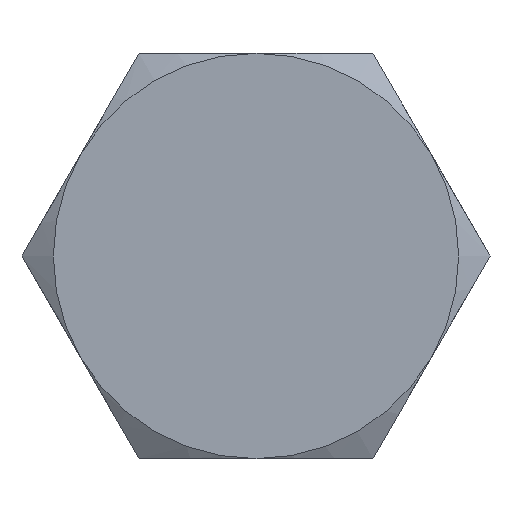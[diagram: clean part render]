
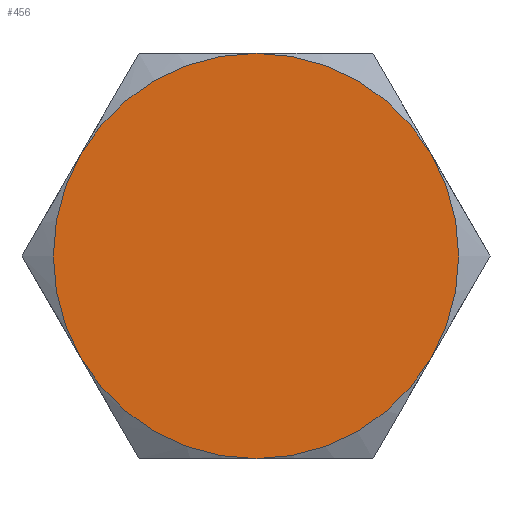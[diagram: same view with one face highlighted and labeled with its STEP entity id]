
A CAD part, left-side view. The second image highlights one B-rep face of the part: STEP entity #456.
In plain terms, the highlighted planar face has unit normal (-1, 0, 0).
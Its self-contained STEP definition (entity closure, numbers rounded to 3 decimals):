
#18 = CARTESIAN_POINT ( 'NONE',  ( 0., -5.629, -3.25 ) ) ;
#26 = DIRECTION ( 'NONE',  ( 0., 0., -1. ) ) ;
#27 = CIRCLE ( 'NONE', #412, 6.5 ) ;
#28 = DIRECTION ( 'NONE',  ( 0., 0., -1. ) ) ;
#36 = CARTESIAN_POINT ( 'NONE',  ( 0., 0., 0. ) ) ;
#37 = VERTEX_POINT ( 'NONE', #264 ) ;
#38 = CARTESIAN_POINT ( 'NONE',  ( 0., 0., 0. ) ) ;
#91 = DIRECTION ( 'NONE',  ( 1., 0., 0. ) ) ;
#94 = AXIS2_PLACEMENT_3D ( 'NONE', #455, #282, #689 ) ;
#104 = CARTESIAN_POINT ( 'NONE',  ( 0., 5.629, -3.25 ) ) ;
#111 = PLANE ( 'NONE',  #94 ) ;
#121 = EDGE_LOOP ( 'NONE', ( #586, #320, #186, #469, #665, #383 ) ) ;
#125 = CIRCLE ( 'NONE', #401, 6.5 ) ;
#150 = DIRECTION ( 'NONE',  ( 1., 0., 0. ) ) ;
#175 = VERTEX_POINT ( 'NONE', #104 ) ;
#182 = CIRCLE ( 'NONE', #580, 6.5 ) ;
#186 = ORIENTED_EDGE ( 'NONE', *, *, #313, .F. ) ;
#190 = CARTESIAN_POINT ( 'NONE',  ( 0., -5.629, 3.25 ) ) ;
#229 = FACE_OUTER_BOUND ( 'NONE', #121, .T. ) ;
#237 = EDGE_CURVE ( 'NONE', #463, #291, #367, .T. ) ;
#245 = CIRCLE ( 'NONE', #319, 6.5 ) ;
#263 = DIRECTION ( 'NONE',  ( 0., 0., -1. ) ) ;
#264 = CARTESIAN_POINT ( 'NONE',  ( 0., 0., -6.5 ) ) ;
#266 = DIRECTION ( 'NONE',  ( 1., 0., 0. ) ) ;
#280 = EDGE_CURVE ( 'NONE', #558, #37, #27, .T. ) ;
#282 = DIRECTION ( 'NONE',  ( 1., 0., 0. ) ) ;
#291 = VERTEX_POINT ( 'NONE', #729 ) ;
#313 = EDGE_CURVE ( 'NONE', #713, #558, #182, .T. ) ;
#319 = AXIS2_PLACEMENT_3D ( 'NONE', #664, #266, #26 ) ;
#320 = ORIENTED_EDGE ( 'NONE', *, *, #280, .F. ) ;
#322 = AXIS2_PLACEMENT_3D ( 'NONE', #38, #652, #375 ) ;
#346 = DIRECTION ( 'NONE',  ( 1., 0., 0. ) ) ;
#367 = CIRCLE ( 'NONE', #322, 6.5 ) ;
#372 = CARTESIAN_POINT ( 'NONE',  ( 0., 0., 0. ) ) ;
#375 = DIRECTION ( 'NONE',  ( 0., 0., 1. ) ) ;
#383 = ORIENTED_EDGE ( 'NONE', *, *, #587, .F. ) ;
#397 = EDGE_CURVE ( 'NONE', #463, #713, #502, .T. ) ;
#401 = AXIS2_PLACEMENT_3D ( 'NONE', #36, #150, #610 ) ;
#412 = AXIS2_PLACEMENT_3D ( 'NONE', #612, #91, #263 ) ;
#445 = CARTESIAN_POINT ( 'NONE',  ( 0., 0., 0. ) ) ;
#455 = CARTESIAN_POINT ( 'NONE',  ( 0., 7.506, 0. ) ) ;
#456 = ADVANCED_FACE ( 'NONE', ( #229 ), #111, .F. ) ;
#463 = VERTEX_POINT ( 'NONE', #618 ) ;
#469 = ORIENTED_EDGE ( 'NONE', *, *, #397, .F. ) ;
#502 = CIRCLE ( 'NONE', #655, 6.5 ) ;
#558 = VERTEX_POINT ( 'NONE', #18 ) ;
#563 = DIRECTION ( 'NONE',  ( 0., 0., -1. ) ) ;
#580 = AXIS2_PLACEMENT_3D ( 'NONE', #372, #595, #28 ) ;
#586 = ORIENTED_EDGE ( 'NONE', *, *, #712, .F. ) ;
#587 = EDGE_CURVE ( 'NONE', #175, #291, #245, .T. ) ;
#595 = DIRECTION ( 'NONE',  ( 1., 0., 0. ) ) ;
#610 = DIRECTION ( 'NONE',  ( 0., 0., -1. ) ) ;
#612 = CARTESIAN_POINT ( 'NONE',  ( 0., 0., 0. ) ) ;
#618 = CARTESIAN_POINT ( 'NONE',  ( 0., 0., 6.5 ) ) ;
#652 = DIRECTION ( 'NONE',  ( -1., 0., 0. ) ) ;
#655 = AXIS2_PLACEMENT_3D ( 'NONE', #445, #346, #563 ) ;
#664 = CARTESIAN_POINT ( 'NONE',  ( 0., 0., 0. ) ) ;
#665 = ORIENTED_EDGE ( 'NONE', *, *, #237, .T. ) ;
#689 = DIRECTION ( 'NONE',  ( 0., 0., -1. ) ) ;
#712 = EDGE_CURVE ( 'NONE', #37, #175, #125, .T. ) ;
#713 = VERTEX_POINT ( 'NONE', #190 ) ;
#729 = CARTESIAN_POINT ( 'NONE',  ( 0., 5.629, 3.25 ) ) ;
